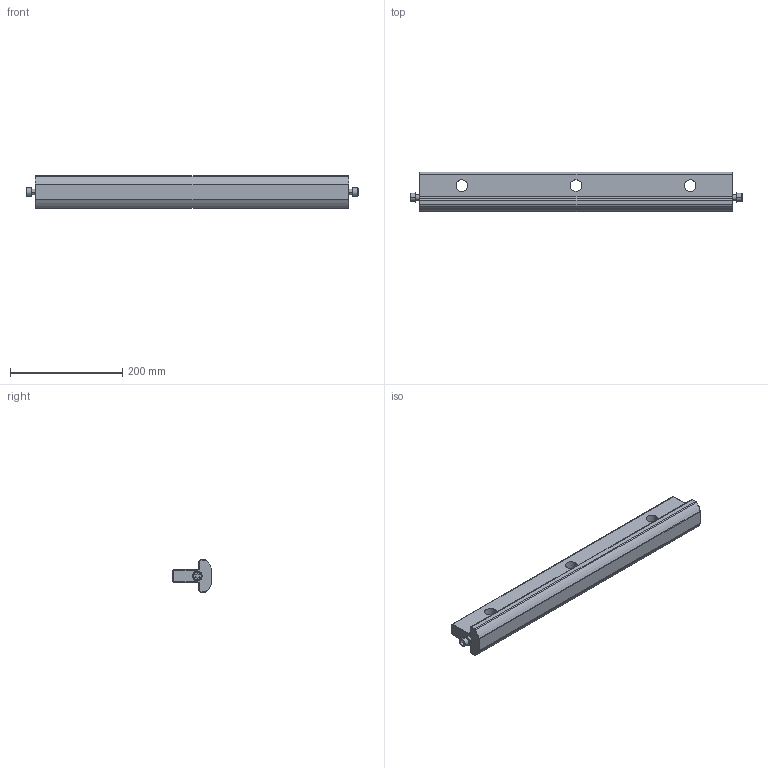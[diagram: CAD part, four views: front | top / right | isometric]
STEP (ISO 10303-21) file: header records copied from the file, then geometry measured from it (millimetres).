
FILE_DESCRIPTION (( 'STEP AP214' ), '1' );
FILE_NAME ('EVA-GXB 3D CAD.STEP', '2023-04-20T05:42:34', ( '' ), ( '' ), 'SwSTEP 2.0', 'SolidWorks 2021', '' );
FILE_SCHEMA (( 'AUTOMOTIVE_DESIGN' ));
Length unit declared in the file: millimetre
Products named in the file (5): EVA-GXB Rigging Screw_92610A346; EVA-GXB 3D CAD; EVA-GXB Rigging Pad UMHW; EVA-GXB Rigging Washer; EVA-GXB Rigging Spreader Bar
Assembly tree (7 placements, depth 2):
  EVA-GXB 3D CAD
    EVA-GXB Rigging Spreader Bar
    EVA-GXB Rigging Pad UMHW  x2
    EVA-GXB Rigging Washer  x2
    EVA-GXB Rigging Screw_92610A346  x2
Bounding box: 591.01 x 69.85 x 57.15 mm (x, y, z)
Volume: 1223655.8 mm3; surface area: 153186.7 mm2
Topology: 7 solids, 7 shells, 471 faces, 1031 edges, 578 vertices
Faces by surface type: cylinder 223, cone 180, plane 60, torus 8
Entity records: 9871 total; most frequent: CARTESIAN_POINT 4063, DIRECTION 1194, ORIENTED_EDGE 1130, EDGE_CURVE 565, AXIS2_PLACEMENT_3D 459, VERTEX_POINT 323, VECTOR 276, LINE 276
